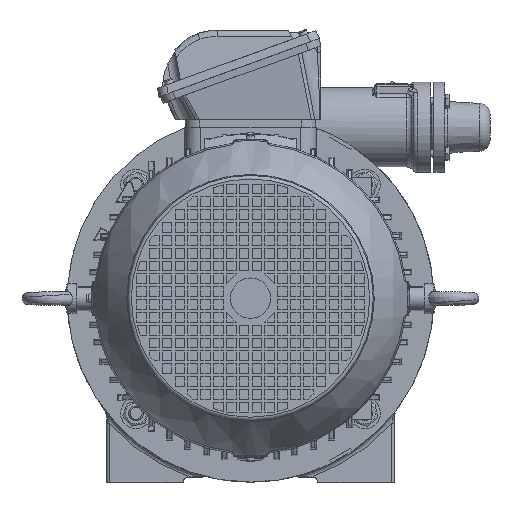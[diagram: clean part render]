
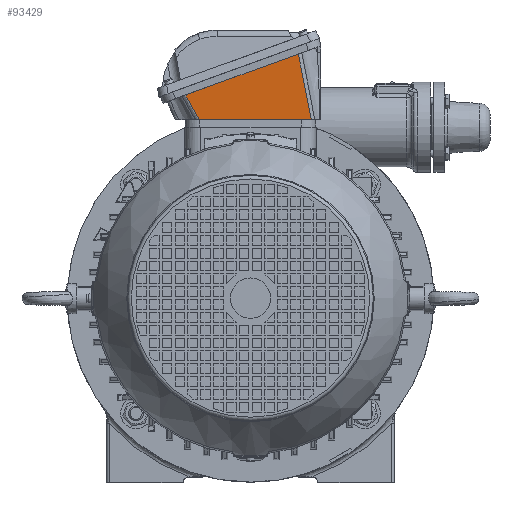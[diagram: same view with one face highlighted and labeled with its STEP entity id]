
A CAD part, top view. The second image highlights one B-rep face of the part: STEP entity #93429.
In plain terms, the highlighted planar face has unit normal (0.036, -0.098, 0.995).
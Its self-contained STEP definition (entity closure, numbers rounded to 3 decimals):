
#3068=B_SPLINE_CURVE_WITH_KNOTS('',3,(#158610,#158611,#158612,#158613),
 .UNSPECIFIED.,.F.,.F.,(4,4),(0.,0.023),.UNSPECIFIED.);
#3069=B_SPLINE_CURVE_WITH_KNOTS('',3,(#158614,#158615,#158616,#158617,#158618,
#158619,#158620,#158621,#158622,#158623,#158624,#158625,#158626),
 .UNSPECIFIED.,.F.,.F.,(4,3,3,3,4),(0.,0.027,0.027,
0.05,0.055),.UNSPECIFIED.);
#14763=LINE('',#158512,#21926);
#14767=LINE('',#158609,#21930);
#21926=VECTOR('',#114842,1000.);
#21930=VECTOR('',#114856,1000.);
#27528=FACE_OUTER_BOUND('',#33130,.T.);
#33130=EDGE_LOOP('',(#73395,#73396,#73397,#73398));
#43501=VERTEX_POINT('',#158510);
#43502=VERTEX_POINT('',#158511);
#43517=VERTEX_POINT('',#158607);
#43518=VERTEX_POINT('',#158608);
#54136=EDGE_CURVE('',#43501,#43502,#14763,.T.);
#54152=EDGE_CURVE('',#43517,#43518,#14767,.T.);
#54153=EDGE_CURVE('',#43518,#43502,#3068,.T.);
#54154=EDGE_CURVE('',#43501,#43517,#3069,.T.);
#73395=ORIENTED_EDGE('',*,*,#54152,.T.);
#73396=ORIENTED_EDGE('',*,*,#54153,.T.);
#73397=ORIENTED_EDGE('',*,*,#54136,.F.);
#73398=ORIENTED_EDGE('',*,*,#54154,.T.);
#90015=PLANE('',#99518);
#93429=ADVANCED_FACE('',(#27528),#90015,.T.);
#99518=AXIS2_PLACEMENT_3D('',#158606,#114854,#114855);
#114842=DIRECTION('',(-0.999,0.,0.036));
#114854=DIRECTION('center_axis',(0.036,-0.098,
0.995));
#114855=DIRECTION('ref_axis',(0.,0.995,0.098));
#114856=DIRECTION('',(-0.94,-0.342,0.));
#158510=CARTESIAN_POINT('',(49.714,146.5,313.598));
#158511=CARTESIAN_POINT('',(-41.969,146.5,316.894));
#158512=CARTESIAN_POINT('',(52.77,146.5,313.489));
#158606=CARTESIAN_POINT('Origin',(53.,211.5,319.9));
#158607=CARTESIAN_POINT('',(39.196,200.091,319.269));
#158608=CARTESIAN_POINT('',(-53.103,166.497,319.269));
#158609=CARTESIAN_POINT('',(55.052,205.862,319.269));
#158610=CARTESIAN_POINT('Ctrl Pts',(-53.103,166.497,
319.269));
#158611=CARTESIAN_POINT('Ctrl Pts',(-49.364,159.847,
318.478));
#158612=CARTESIAN_POINT('Ctrl Pts',(-45.658,153.178,
317.686));
#158613=CARTESIAN_POINT('Ctrl Pts',(-41.969,146.5,316.894));
#158614=CARTESIAN_POINT('Ctrl Pts',(49.714,146.5,313.598));
#158615=CARTESIAN_POINT('Ctrl Pts',(47.933,155.339,314.535));
#158616=CARTESIAN_POINT('Ctrl Pts',(46.165,164.18,315.472));
#158617=CARTESIAN_POINT('Ctrl Pts',(44.422,173.026,316.409));
#158618=CARTESIAN_POINT('Ctrl Pts',(44.406,173.111,316.417));
#158619=CARTESIAN_POINT('Ctrl Pts',(44.389,173.195,316.426));
#158620=CARTESIAN_POINT('Ctrl Pts',(44.373,173.279,316.435));
#158621=CARTESIAN_POINT('Ctrl Pts',(42.919,180.657,317.216));
#158622=CARTESIAN_POINT('Ctrl Pts',(41.482,188.038,317.997));
#158623=CARTESIAN_POINT('Ctrl Pts',(40.078,195.426,318.777));
#158624=CARTESIAN_POINT('Ctrl Pts',(39.782,196.981,318.941));
#158625=CARTESIAN_POINT('Ctrl Pts',(39.488,198.535,319.105));
#158626=CARTESIAN_POINT('Ctrl Pts',(39.196,200.091,319.269));
